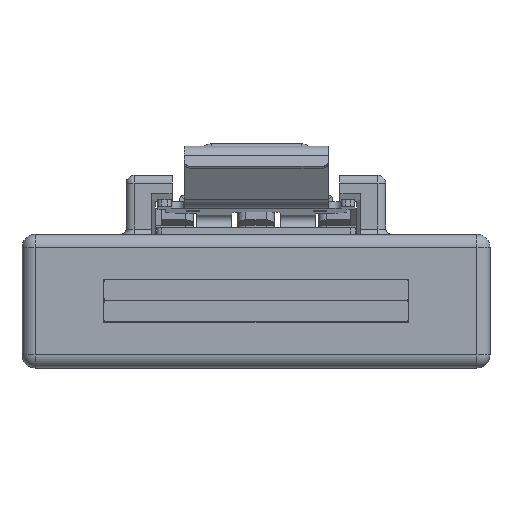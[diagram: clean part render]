
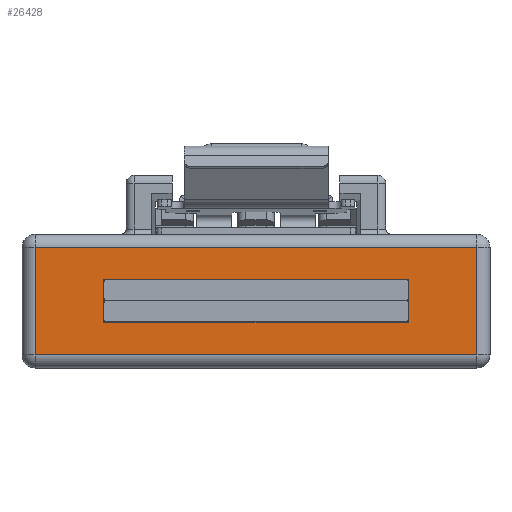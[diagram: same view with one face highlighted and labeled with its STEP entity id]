
A CAD part, front view. The second image highlights one B-rep face of the part: STEP entity #26428.
In plain terms, the highlighted planar face has unit normal (0, -1, 0) as drawn and (-1, 0, 0) by its records, which use the part's own axes.
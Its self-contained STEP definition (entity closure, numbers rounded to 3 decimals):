
#20666=DIRECTION('',(0.,0.,1.));
#20667=VECTOR('',#20666,16.85);
#20668=CARTESIAN_POINT('',(0.2,0.73,-8.425));
#20669=LINE('',#20668,#20667);
#20959=DIRECTION('',(0.,0.,-1.));
#20960=VECTOR('',#20959,16.85);
#20961=CARTESIAN_POINT('',(0.2,4.83,8.425));
#20962=LINE('',#20961,#20960);
#20967=DIRECTION('',(0.,1.,0.));
#20968=VECTOR('',#20967,1.636);
#20969=CARTESIAN_POINT('',(0.2,1.982,5.81));
#20970=LINE('',#20969,#20968);
#20971=DIRECTION('',(0.,0.,-1.));
#20972=VECTOR('',#20971,11.62);
#20973=CARTESIAN_POINT('',(0.2,3.618,5.81));
#20974=LINE('',#20973,#20972);
#20979=DIRECTION('',(0.,-1.,0.));
#20980=VECTOR('',#20979,4.1);
#20981=CARTESIAN_POINT('',(0.2,4.83,-8.425));
#20982=LINE('',#20981,#20980);
#21029=DIRECTION('',(0.,1.,0.));
#21030=VECTOR('',#21029,4.1);
#21031=CARTESIAN_POINT('',(0.2,0.73,8.425));
#21032=LINE('',#21031,#21030);
#21052=DIRECTION('',(0.,0.,-1.));
#21053=VECTOR('',#21052,11.62);
#21054=CARTESIAN_POINT('',(0.2,1.982,5.81));
#21055=LINE('',#21054,#21053);
#21100=DIRECTION('',(0.,1.,0.));
#21101=VECTOR('',#21100,1.636);
#21102=CARTESIAN_POINT('',(0.2,1.982,-5.81));
#21103=LINE('',#21102,#21101);
#25331=CARTESIAN_POINT('',(0.2,0.73,-8.425));
#25332=VERTEX_POINT('',#25331);
#25333=CARTESIAN_POINT('',(0.2,0.73,8.425));
#25334=VERTEX_POINT('',#25333);
#25627=CARTESIAN_POINT('',(0.2,4.83,-8.425));
#25628=VERTEX_POINT('',#25627);
#25629=CARTESIAN_POINT('',(0.2,4.83,8.425));
#25630=VERTEX_POINT('',#25629);
#25631=CARTESIAN_POINT('',(0.2,1.982,5.81));
#25632=CARTESIAN_POINT('',(0.2,1.982,-5.81));
#25633=VERTEX_POINT('',#25631);
#25634=VERTEX_POINT('',#25632);
#25635=CARTESIAN_POINT('',(0.2,3.618,5.81));
#25636=VERTEX_POINT('',#25635);
#25637=CARTESIAN_POINT('',(0.2,3.618,-5.81));
#25638=VERTEX_POINT('',#25637);
#26405=CARTESIAN_POINT('',(0.2,0.23,13.));
#26406=DIRECTION('',(1.,0.,0.));
#26407=DIRECTION('',(0.,1.,0.));
#26408=AXIS2_PLACEMENT_3D('',#26405,#26406,#26407);
#26409=PLANE('',#26408);
#26410=ORIENTED_EDGE('',*,*,#26044,.F.);
#26412=ORIENTED_EDGE('',*,*,#26411,.F.);
#26413=ORIENTED_EDGE('',*,*,#26396,.F.);
#26415=ORIENTED_EDGE('',*,*,#26414,.F.);
#26416=EDGE_LOOP('',(#26410,#26412,#26413,#26415));
#26417=FACE_OUTER_BOUND('',#26416,.F.);
#26419=ORIENTED_EDGE('',*,*,#26418,.F.);
#26421=ORIENTED_EDGE('',*,*,#26420,.T.);
#26423=ORIENTED_EDGE('',*,*,#26422,.T.);
#26425=ORIENTED_EDGE('',*,*,#26424,.F.);
#26426=EDGE_LOOP('',(#26419,#26421,#26423,#26425));
#26427=FACE_BOUND('',#26426,.F.);
#26428=ADVANCED_FACE('',(#26417,#26427),#26409,.F.);
#26044=EDGE_CURVE('',#25332,#25334,#20669,.T.);
#26396=EDGE_CURVE('',#25630,#25628,#20962,.T.);
#26411=EDGE_CURVE('',#25628,#25332,#20982,.T.);
#26414=EDGE_CURVE('',#25334,#25630,#21032,.T.);
#26418=EDGE_CURVE('',#25633,#25634,#21055,.T.);
#26420=EDGE_CURVE('',#25633,#25636,#20970,.T.);
#26422=EDGE_CURVE('',#25636,#25638,#20974,.T.);
#26424=EDGE_CURVE('',#25634,#25638,#21103,.T.);
